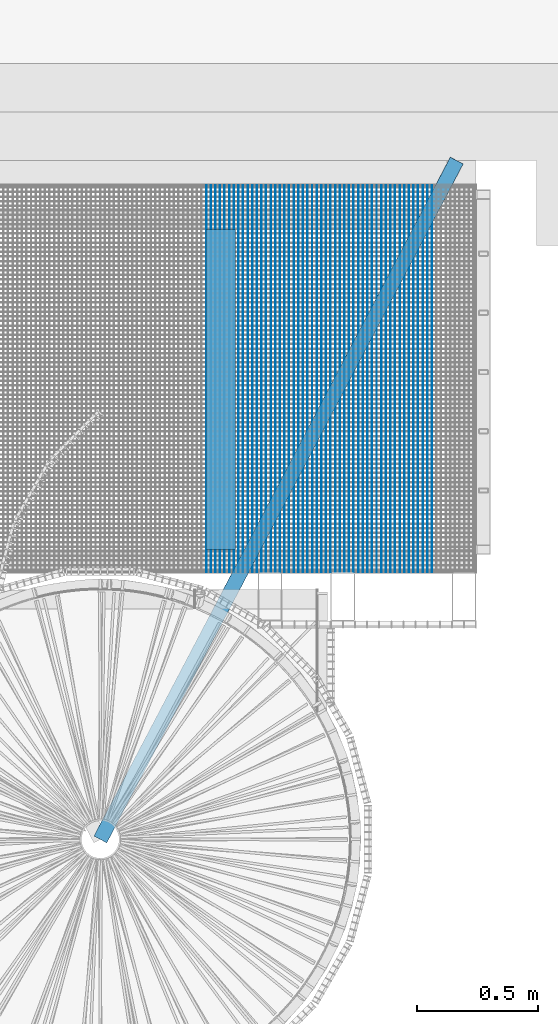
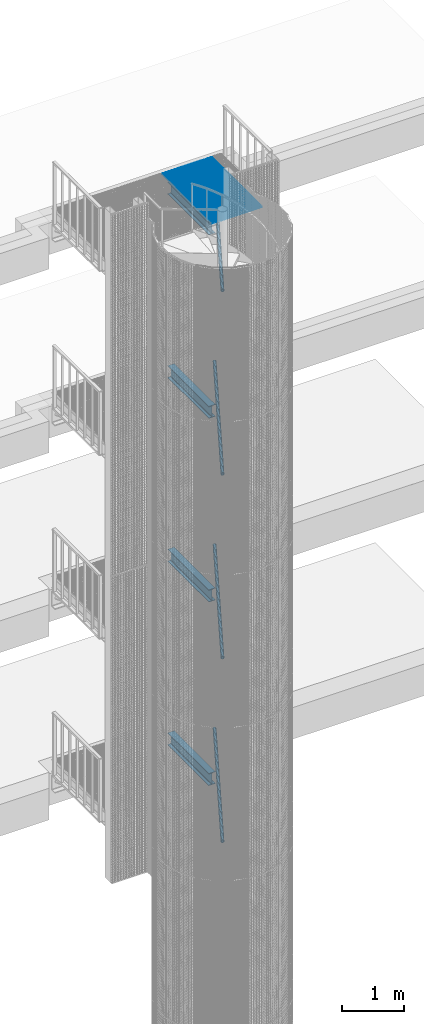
# One storey, part 86 of 1148: 58 beams, 9 elements without a shape of their own.
"""IFC2X3 building model written with IfcOpenShell, lengths in millimetres."""

from ifc_helpers import new_model, si_unit, frame, origin_with_axes, origin_2d_with_axis, place, context, subcontext, project, spatial, rectangle, hollow_circle, i_section, extrude, material, type_object, element, aggregate, save


model = new_model("IFC2X3")

# Units and contexts
model_context = context("Model", 3, precision=1e-05, world=origin_with_axes())
body_context = subcontext(model_context, "Body", "Model", "MODEL_VIEW")
ifc_project = project(units=[si_unit("LENGTHUNIT", "METRE", prefix="MILLI"), si_unit("AREAUNIT", "SQUARE_METRE"), si_unit("VOLUMEUNIT", "CUBIC_METRE"), si_unit("MASSUNIT", "GRAM", prefix="KILO"), si_unit("TIMEUNIT", "SECOND"), si_unit("PLANEANGLEUNIT", "RADIAN"), si_unit("SOLIDANGLEUNIT", "STERADIAN"), si_unit("THERMODYNAMICTEMPERATUREUNIT", "DEGREE_CELSIUS"), si_unit("LUMINOUSINTENSITYUNIT", "LUMEN")], contexts=[model_context])

# Site, building, storey
site_placement = place(None, origin_with_axes())
site = spatial("IfcSite", under=ifc_project, at=site_placement, Name="Undefined", CompositionType="ELEMENT")
building_placement = place(site_placement, origin_with_axes())
building = spatial("IfcBuilding", under=site, at=building_placement, Name="Undefined", CompositionType="ELEMENT")
storey_placement = place(building_placement, origin_with_axes())
storey = spatial("IfcBuildingStorey", under=building, at=storey_placement, Name="Undefined", CompositionType="ELEMENT", Elevation=0.0)

# Assembly, beams
assembly_1_placement = place(storey_placement, origin_with_axes())
assembly_1 = element("IfcElementAssembly", 1, at=assembly_1_placement, inside=storey, Name="BORDURE", AssemblyPlace="NOTDEFINED", PredefinedType="NOTDEFINED")
ifc_material_1 = material(Name="STEEL/S235JR")
beam_type_1 = type_object("IfcBeamType", Name="PL2*10", PredefinedType="NOTDEFINED")
beam_1_placement = place(assembly_1_placement, frame((437.075424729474, 1102.00446993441, 17285.0), z_axis=(0.0, 0.0, 1.0), x_axis=(-4.50599999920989e-06, 0.999999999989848, 0.0)))
beam_1 = element("IfcBeam", 2, at=beam_1_placement, type_object=beam_type_1, material=ifc_material_1, Name="ENTRETOISE", context=body_context, shape_type="SweptSolid", body=[
    extrude(rectangle(XDim=2.0, YDim=10.0, at=origin_2d_with_axis()), frame((1596.0000000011, -1.35186458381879e-18, -7.27595761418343e-12), z_axis=(-1.0, 0.0, 0.0), x_axis=(0.0, -1.0, 0.0)), (0.0, 0.0, 1.0), 1596.0),
])
beam_2_placement = place(assembly_1_placement, frame((456.07542472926, 1102.00456345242, 17285.0), z_axis=(0.0, 0.0, 1.0), x_axis=(-4.50599999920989e-06, 0.999999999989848, 0.0)))
beam_2 = element("IfcBeam", 3, at=beam_2_placement, type_object=beam_type_1, material=ifc_material_1, Name="ENTRETOISE", context=body_context, shape_type="SweptSolid", body=[
    extrude(rectangle(XDim=2.0, YDim=10.0, at=origin_2d_with_axis()), frame((1596.0000000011, -1.35186458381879e-18, -7.27595761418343e-12), z_axis=(-1.0, 0.0, 0.0), x_axis=(0.0, -1.0, 0.0)), (0.0, 0.0, 1.0), 1596.0),
])
beam_3_placement = place(assembly_1_placement, frame((475.075424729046, 1102.00465697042, 17285.0), z_axis=(0.0, 0.0, 1.0), x_axis=(-4.50599999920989e-06, 0.999999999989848, 0.0)))
beam_3 = element("IfcBeam", 4, at=beam_3_placement, type_object=beam_type_1, material=ifc_material_1, Name="ENTRETOISE", context=body_context, shape_type="SweptSolid", body=[
    extrude(rectangle(XDim=2.0, YDim=10.0, at=origin_2d_with_axis()), frame((1596.0000000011, -1.35186458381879e-18, -7.27595761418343e-12), z_axis=(-1.0, 0.0, 0.0), x_axis=(0.0, -1.0, 0.0)), (0.0, 0.0, 1.0), 1596.0),
])
beam_4_placement = place(assembly_1_placement, frame((494.075424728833, 1102.00475048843, 17285.0), z_axis=(0.0, 0.0, 1.0), x_axis=(-4.50599999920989e-06, 0.999999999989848, 0.0)))
beam_4 = element("IfcBeam", 5, at=beam_4_placement, type_object=beam_type_1, material=ifc_material_1, Name="ENTRETOISE", context=body_context, shape_type="SweptSolid", body=[
    extrude(rectangle(XDim=2.0, YDim=10.0, at=origin_2d_with_axis()), frame((1596.0000000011, -1.35186458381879e-18, -7.27595761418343e-12), z_axis=(-1.0, 0.0, 0.0), x_axis=(0.0, -1.0, 0.0)), (0.0, 0.0, 1.0), 1596.0),
])
beam_5_placement = place(assembly_1_placement, frame((513.07542472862, 1102.00484400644, 17285.0), z_axis=(0.0, 0.0, 1.0), x_axis=(-4.50599999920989e-06, 0.999999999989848, 0.0)))
beam_5 = element("IfcBeam", 6, at=beam_5_placement, type_object=beam_type_1, material=ifc_material_1, Name="ENTRETOISE", context=body_context, shape_type="SweptSolid", body=[
    extrude(rectangle(XDim=2.0, YDim=10.0, at=origin_2d_with_axis()), frame((1596.0000000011, -1.35186458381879e-18, -7.27595761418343e-12), z_axis=(-1.0, 0.0, 0.0), x_axis=(0.0, -1.0, 0.0)), (0.0, 0.0, 1.0), 1596.0),
])
beam_6_placement = place(assembly_1_placement, frame((532.075424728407, 1102.00493752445, 17285.0), z_axis=(0.0, 0.0, 1.0), x_axis=(-4.50599999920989e-06, 0.999999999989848, 0.0)))
beam_6 = element("IfcBeam", 7, at=beam_6_placement, type_object=beam_type_1, material=ifc_material_1, Name="ENTRETOISE", context=body_context, shape_type="SweptSolid", body=[
    extrude(rectangle(XDim=2.0, YDim=10.0, at=origin_2d_with_axis()), frame((1596.0000000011, -1.35186458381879e-18, -7.27595761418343e-12), z_axis=(-1.0, 0.0, 0.0), x_axis=(0.0, -1.0, 0.0)), (0.0, 0.0, 1.0), 1596.0),
])
beam_7_placement = place(assembly_1_placement, frame((551.075424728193, 1102.00503104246, 17285.0), z_axis=(0.0, 0.0, 1.0), x_axis=(-4.50599999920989e-06, 0.999999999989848, 0.0)))
beam_7 = element("IfcBeam", 8, at=beam_7_placement, type_object=beam_type_1, material=ifc_material_1, Name="ENTRETOISE", context=body_context, shape_type="SweptSolid", body=[
    extrude(rectangle(XDim=2.0, YDim=10.0, at=origin_2d_with_axis()), frame((1596.0000000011, -1.35186458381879e-18, -7.27595761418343e-12), z_axis=(-1.0, 0.0, 0.0), x_axis=(0.0, -1.0, 0.0)), (0.0, 0.0, 1.0), 1596.0),
])
beam_8_placement = place(assembly_1_placement, frame((570.07542472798, 1102.00512456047, 17285.0), z_axis=(0.0, 0.0, 1.0), x_axis=(-4.50599999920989e-06, 0.999999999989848, 0.0)))
beam_8 = element("IfcBeam", 9, at=beam_8_placement, type_object=beam_type_1, material=ifc_material_1, Name="ENTRETOISE", context=body_context, shape_type="SweptSolid", body=[
    extrude(rectangle(XDim=2.0, YDim=10.0, at=origin_2d_with_axis()), frame((1596.0000000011, -1.35186458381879e-18, -7.27595761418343e-12), z_axis=(-1.0, 0.0, 0.0), x_axis=(0.0, -1.0, 0.0)), (0.0, 0.0, 1.0), 1596.0),
])
beam_9_placement = place(assembly_1_placement, frame((589.075424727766, 1102.00521807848, 17285.0), z_axis=(0.0, 0.0, 1.0), x_axis=(-4.50599999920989e-06, 0.999999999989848, 0.0)))
beam_9 = element("IfcBeam", 10, at=beam_9_placement, type_object=beam_type_1, material=ifc_material_1, Name="ENTRETOISE", context=body_context, shape_type="SweptSolid", body=[
    extrude(rectangle(XDim=2.0, YDim=10.0, at=origin_2d_with_axis()), frame((1596.0000000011, -1.35186458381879e-18, -7.27595761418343e-12), z_axis=(-1.0, 0.0, 0.0), x_axis=(0.0, -1.0, 0.0)), (0.0, 0.0, 1.0), 1596.0),
])
beam_10_placement = place(assembly_1_placement, frame((608.075424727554, 1102.00531159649, 17285.0), z_axis=(0.0, 0.0, 1.0), x_axis=(-4.50599999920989e-06, 0.999999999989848, 0.0)))
beam_10 = element("IfcBeam", 11, at=beam_10_placement, type_object=beam_type_1, material=ifc_material_1, Name="ENTRETOISE", context=body_context, shape_type="SweptSolid", body=[
    extrude(rectangle(XDim=2.0, YDim=10.0, at=origin_2d_with_axis()), frame((1596.0000000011, -1.35186458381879e-18, -7.27595761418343e-12), z_axis=(-1.0, 0.0, 0.0), x_axis=(0.0, -1.0, 0.0)), (0.0, 0.0, 1.0), 1596.0),
])
beam_11_placement = place(assembly_1_placement, frame((627.075424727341, 1102.0054051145, 17285.0), z_axis=(0.0, 0.0, 1.0), x_axis=(-4.50599999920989e-06, 0.999999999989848, 0.0)))
beam_11 = element("IfcBeam", 12, at=beam_11_placement, type_object=beam_type_1, material=ifc_material_1, Name="ENTRETOISE", context=body_context, shape_type="SweptSolid", body=[
    extrude(rectangle(XDim=2.0, YDim=10.0, at=origin_2d_with_axis()), frame((1596.0000000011, -1.35186458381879e-18, -7.27595761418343e-12), z_axis=(-1.0, 0.0, 0.0), x_axis=(0.0, -1.0, 0.0)), (0.0, 0.0, 1.0), 1596.0),
])
beam_12_placement = place(assembly_1_placement, frame((646.075424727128, 1102.0054986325, 17285.0), z_axis=(0.0, 0.0, 1.0), x_axis=(-4.50599999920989e-06, 0.999999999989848, 0.0)))
beam_12 = element("IfcBeam", 13, at=beam_12_placement, type_object=beam_type_1, material=ifc_material_1, Name="ENTRETOISE", context=body_context, shape_type="SweptSolid", body=[
    extrude(rectangle(XDim=2.0, YDim=10.0, at=origin_2d_with_axis()), frame((1596.0000000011, -1.35186458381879e-18, -7.27595761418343e-12), z_axis=(-1.0, 0.0, 0.0), x_axis=(0.0, -1.0, 0.0)), (0.0, 0.0, 1.0), 1596.0),
])
beam_13_placement = place(assembly_1_placement, frame((665.075424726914, 1102.00559215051, 17285.0), z_axis=(0.0, 0.0, 1.0), x_axis=(-4.50599999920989e-06, 0.999999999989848, 0.0)))
beam_13 = element("IfcBeam", 14, at=beam_13_placement, type_object=beam_type_1, material=ifc_material_1, Name="ENTRETOISE", context=body_context, shape_type="SweptSolid", body=[
    extrude(rectangle(XDim=2.0, YDim=10.0, at=origin_2d_with_axis()), frame((1596.0000000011, -1.35186458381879e-18, -7.27595761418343e-12), z_axis=(-1.0, 0.0, 0.0), x_axis=(0.0, -1.0, 0.0)), (0.0, 0.0, 1.0), 1596.0),
])
beam_14_placement = place(assembly_1_placement, frame((684.0754247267, 1102.00568566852, 17285.0), z_axis=(0.0, 0.0, 1.0), x_axis=(-4.50599999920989e-06, 0.999999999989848, 0.0)))
beam_14 = element("IfcBeam", 15, at=beam_14_placement, type_object=beam_type_1, material=ifc_material_1, Name="ENTRETOISE", context=body_context, shape_type="SweptSolid", body=[
    extrude(rectangle(XDim=2.0, YDim=10.0, at=origin_2d_with_axis()), frame((1596.0000000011, -1.35186458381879e-18, -7.27595761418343e-12), z_axis=(-1.0, 0.0, 0.0), x_axis=(0.0, -1.0, 0.0)), (0.0, 0.0, 1.0), 1596.0),
])
beam_15_placement = place(assembly_1_placement, frame((703.075424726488, 1102.00577918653, 17285.0), z_axis=(0.0, 0.0, 1.0), x_axis=(-4.50599999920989e-06, 0.999999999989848, 0.0)))
beam_15 = element("IfcBeam", 16, at=beam_15_placement, type_object=beam_type_1, material=ifc_material_1, Name="ENTRETOISE", context=body_context, shape_type="SweptSolid", body=[
    extrude(rectangle(XDim=2.0, YDim=10.0, at=origin_2d_with_axis()), frame((1596.0000000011, -1.35186458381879e-18, -7.27595761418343e-12), z_axis=(-1.0, 0.0, 0.0), x_axis=(0.0, -1.0, 0.0)), (0.0, 0.0, 1.0), 1596.0),
])
beam_16_placement = place(assembly_1_placement, frame((722.075424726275, 1102.00587270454, 17285.0), z_axis=(0.0, 0.0, 1.0), x_axis=(-4.50599999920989e-06, 0.999999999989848, 0.0)))
beam_16 = element("IfcBeam", 17, at=beam_16_placement, type_object=beam_type_1, material=ifc_material_1, Name="ENTRETOISE", context=body_context, shape_type="SweptSolid", body=[
    extrude(rectangle(XDim=2.0, YDim=10.0, at=origin_2d_with_axis()), frame((1596.0000000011, -1.35186458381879e-18, -7.27595761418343e-12), z_axis=(-1.0, 0.0, 0.0), x_axis=(0.0, -1.0, 0.0)), (0.0, 0.0, 1.0), 1596.0),
])
beam_17_placement = place(assembly_1_placement, frame((741.075424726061, 1102.00596622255, 17285.0), z_axis=(0.0, 0.0, 1.0), x_axis=(-4.50599999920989e-06, 0.999999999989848, 0.0)))
beam_17 = element("IfcBeam", 18, at=beam_17_placement, type_object=beam_type_1, material=ifc_material_1, Name="ENTRETOISE", context=body_context, shape_type="SweptSolid", body=[
    extrude(rectangle(XDim=2.0, YDim=10.0, at=origin_2d_with_axis()), frame((1596.0000000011, -1.35186458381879e-18, -7.27595761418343e-12), z_axis=(-1.0, 0.0, 0.0), x_axis=(0.0, -1.0, 0.0)), (0.0, 0.0, 1.0), 1596.0),
])
beam_18_placement = place(assembly_1_placement, frame((760.075424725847, 1102.00605974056, 17285.0), z_axis=(0.0, 0.0, 1.0), x_axis=(-4.50599999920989e-06, 0.999999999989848, 0.0)))
beam_18 = element("IfcBeam", 19, at=beam_18_placement, type_object=beam_type_1, material=ifc_material_1, Name="ENTRETOISE", context=body_context, shape_type="SweptSolid", body=[
    extrude(rectangle(XDim=2.0, YDim=10.0, at=origin_2d_with_axis()), frame((1596.0000000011, -1.35186458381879e-18, -7.27595761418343e-12), z_axis=(-1.0, 0.0, 0.0), x_axis=(0.0, -1.0, 0.0)), (0.0, 0.0, 1.0), 1596.0),
])
beam_19_placement = place(assembly_1_placement, frame((779.075424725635, 1102.00615325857, 17285.0), z_axis=(0.0, 0.0, 1.0), x_axis=(-4.50599999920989e-06, 0.999999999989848, 0.0)))
beam_19 = element("IfcBeam", 20, at=beam_19_placement, type_object=beam_type_1, material=ifc_material_1, Name="ENTRETOISE", context=body_context, shape_type="SweptSolid", body=[
    extrude(rectangle(XDim=2.0, YDim=10.0, at=origin_2d_with_axis()), frame((1596.0000000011, -1.35186458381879e-18, -7.27595761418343e-12), z_axis=(-1.0, 0.0, 0.0), x_axis=(0.0, -1.0, 0.0)), (0.0, 0.0, 1.0), 1596.0),
])
beam_20_placement = place(assembly_1_placement, frame((798.075424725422, 1102.00624677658, 17285.0), z_axis=(0.0, 0.0, 1.0), x_axis=(-4.50599999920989e-06, 0.999999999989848, 0.0)))
beam_20 = element("IfcBeam", 21, at=beam_20_placement, type_object=beam_type_1, material=ifc_material_1, Name="ENTRETOISE", context=body_context, shape_type="SweptSolid", body=[
    extrude(rectangle(XDim=2.0, YDim=10.0, at=origin_2d_with_axis()), frame((1596.0000000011, -1.35186458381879e-18, -7.27595761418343e-12), z_axis=(-1.0, 0.0, 0.0), x_axis=(0.0, -1.0, 0.0)), (0.0, 0.0, 1.0), 1596.0),
])
beam_21_placement = place(assembly_1_placement, frame((817.075424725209, 1102.00634029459, 17285.0), z_axis=(0.0, 0.0, 1.0), x_axis=(-4.50599999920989e-06, 0.999999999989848, 0.0)))
beam_21 = element("IfcBeam", 22, at=beam_21_placement, type_object=beam_type_1, material=ifc_material_1, Name="ENTRETOISE", context=body_context, shape_type="SweptSolid", body=[
    extrude(rectangle(XDim=2.0, YDim=10.0, at=origin_2d_with_axis()), frame((1596.0000000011, -1.35186458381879e-18, -7.27595761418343e-12), z_axis=(-1.0, 0.0, 0.0), x_axis=(0.0, -1.0, 0.0)), (0.0, 0.0, 1.0), 1596.0),
])
beam_22_placement = place(assembly_1_placement, frame((836.075424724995, 1102.00643381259, 17285.0), z_axis=(0.0, 0.0, 1.0), x_axis=(-4.50599999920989e-06, 0.999999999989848, 0.0)))
beam_22 = element("IfcBeam", 23, at=beam_22_placement, type_object=beam_type_1, material=ifc_material_1, Name="ENTRETOISE", context=body_context, shape_type="SweptSolid", body=[
    extrude(rectangle(XDim=2.0, YDim=10.0, at=origin_2d_with_axis()), frame((1596.0000000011, -1.35186458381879e-18, -7.27595761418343e-12), z_axis=(-1.0, 0.0, 0.0), x_axis=(0.0, -1.0, 0.0)), (0.0, 0.0, 1.0), 1596.0),
])
beam_23_placement = place(assembly_1_placement, frame((855.075424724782, 1102.0065273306, 17285.0), z_axis=(0.0, 0.0, 1.0), x_axis=(-4.50599999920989e-06, 0.999999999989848, 0.0)))
beam_23 = element("IfcBeam", 24, at=beam_23_placement, type_object=beam_type_1, material=ifc_material_1, Name="ENTRETOISE", context=body_context, shape_type="SweptSolid", body=[
    extrude(rectangle(XDim=2.0, YDim=10.0, at=origin_2d_with_axis()), frame((1596.0000000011, -1.35186458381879e-18, -7.27595761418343e-12), z_axis=(-1.0, 0.0, 0.0), x_axis=(0.0, -1.0, 0.0)), (0.0, 0.0, 1.0), 1596.0),
])
beam_24_placement = place(assembly_1_placement, frame((874.075424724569, 1102.00662084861, 17285.0), z_axis=(0.0, 0.0, 1.0), x_axis=(-4.50599999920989e-06, 0.999999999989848, 0.0)))
beam_24 = element("IfcBeam", 25, at=beam_24_placement, type_object=beam_type_1, material=ifc_material_1, Name="ENTRETOISE", context=body_context, shape_type="SweptSolid", body=[
    extrude(rectangle(XDim=2.0, YDim=10.0, at=origin_2d_with_axis()), frame((1596.0000000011, -1.35186458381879e-18, -7.27595761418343e-12), z_axis=(-1.0, 0.0, 0.0), x_axis=(0.0, -1.0, 0.0)), (0.0, 0.0, 1.0), 1596.0),
])
beam_25_placement = place(assembly_1_placement, frame((893.075424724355, 1102.00671436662, 17285.0), z_axis=(0.0, 0.0, 1.0), x_axis=(-4.50599999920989e-06, 0.999999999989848, 0.0)))
beam_25 = element("IfcBeam", 26, at=beam_25_placement, type_object=beam_type_1, material=ifc_material_1, Name="ENTRETOISE", context=body_context, shape_type="SweptSolid", body=[
    extrude(rectangle(XDim=2.0, YDim=10.0, at=origin_2d_with_axis()), frame((1596.0000000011, -1.35186458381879e-18, -7.27595761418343e-12), z_axis=(-1.0, 0.0, 0.0), x_axis=(0.0, -1.0, 0.0)), (0.0, 0.0, 1.0), 1596.0),
])
beam_26_placement = place(assembly_1_placement, frame((912.075424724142, 1102.00680788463, 17285.0), z_axis=(0.0, 0.0, 1.0), x_axis=(-4.50599999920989e-06, 0.999999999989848, 0.0)))
beam_26 = element("IfcBeam", 27, at=beam_26_placement, type_object=beam_type_1, material=ifc_material_1, Name="ENTRETOISE", context=body_context, shape_type="SweptSolid", body=[
    extrude(rectangle(XDim=2.0, YDim=10.0, at=origin_2d_with_axis()), frame((1596.0000000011, -1.35186458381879e-18, -7.27595761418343e-12), z_axis=(-1.0, 0.0, 0.0), x_axis=(0.0, -1.0, 0.0)), (0.0, 0.0, 1.0), 1596.0),
])
beam_27_placement = place(assembly_1_placement, frame((931.075424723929, 1102.00690140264, 17285.0), z_axis=(0.0, 0.0, 1.0), x_axis=(-4.50599999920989e-06, 0.999999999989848, 0.0)))
beam_27 = element("IfcBeam", 28, at=beam_27_placement, type_object=beam_type_1, material=ifc_material_1, Name="ENTRETOISE", context=body_context, shape_type="SweptSolid", body=[
    extrude(rectangle(XDim=2.0, YDim=10.0, at=origin_2d_with_axis()), frame((1596.0000000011, -1.35186458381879e-18, -7.27595761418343e-12), z_axis=(-1.0, 0.0, 0.0), x_axis=(0.0, -1.0, 0.0)), (0.0, 0.0, 1.0), 1596.0),
])
beam_28_placement = place(assembly_1_placement, frame((950.075424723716, 1102.00699492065, 17285.0), z_axis=(0.0, 0.0, 1.0), x_axis=(-4.50599999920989e-06, 0.999999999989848, 0.0)))
beam_28 = element("IfcBeam", 29, at=beam_28_placement, type_object=beam_type_1, material=ifc_material_1, Name="ENTRETOISE", context=body_context, shape_type="SweptSolid", body=[
    extrude(rectangle(XDim=2.0, YDim=10.0, at=origin_2d_with_axis()), frame((1596.0000000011, -1.35186458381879e-18, -7.27595761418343e-12), z_axis=(-1.0, 0.0, 0.0), x_axis=(0.0, -1.0, 0.0)), (0.0, 0.0, 1.0), 1596.0),
])
beam_29_placement = place(assembly_1_placement, frame((969.075424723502, 1102.00708843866, 17285.0), z_axis=(0.0, 0.0, 1.0), x_axis=(-4.50599999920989e-06, 0.999999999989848, 0.0)))
beam_29 = element("IfcBeam", 30, at=beam_29_placement, type_object=beam_type_1, material=ifc_material_1, Name="ENTRETOISE", context=body_context, shape_type="SweptSolid", body=[
    extrude(rectangle(XDim=2.0, YDim=10.0, at=origin_2d_with_axis()), frame((1596.0000000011, -1.35186458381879e-18, -7.27595761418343e-12), z_axis=(-1.0, 0.0, 0.0), x_axis=(0.0, -1.0, 0.0)), (0.0, 0.0, 1.0), 1596.0),
])
beam_30_placement = place(assembly_1_placement, frame((988.07542472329, 1102.00718195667, 17285.0), z_axis=(0.0, 0.0, 1.0), x_axis=(-4.50599999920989e-06, 0.999999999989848, 0.0)))
beam_30 = element("IfcBeam", 31, at=beam_30_placement, type_object=beam_type_1, material=ifc_material_1, Name="ENTRETOISE", context=body_context, shape_type="SweptSolid", body=[
    extrude(rectangle(XDim=2.0, YDim=10.0, at=origin_2d_with_axis()), frame((1596.0000000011, -1.35186458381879e-18, -7.27595761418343e-12), z_axis=(-1.0, 0.0, 0.0), x_axis=(0.0, -1.0, 0.0)), (0.0, 0.0, 1.0), 1596.0),
])
beam_31_placement = place(assembly_1_placement, frame((1007.07542472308, 1102.00727547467, 17285.0), z_axis=(0.0, 0.0, 1.0), x_axis=(-4.50599999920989e-06, 0.999999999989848, 0.0)))
beam_31 = element("IfcBeam", 32, at=beam_31_placement, type_object=beam_type_1, material=ifc_material_1, Name="ENTRETOISE", context=body_context, shape_type="SweptSolid", body=[
    extrude(rectangle(XDim=2.0, YDim=10.0, at=origin_2d_with_axis()), frame((1596.0000000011, -1.35186458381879e-18, -7.27595761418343e-12), z_axis=(-1.0, 0.0, 0.0), x_axis=(0.0, -1.0, 0.0)), (0.0, 0.0, 1.0), 1596.0),
])
beam_32_placement = place(assembly_1_placement, frame((1026.07542472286, 1102.00736899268, 17285.0), z_axis=(0.0, 0.0, 1.0), x_axis=(-4.50599999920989e-06, 0.999999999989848, 0.0)))
beam_32 = element("IfcBeam", 33, at=beam_32_placement, type_object=beam_type_1, material=ifc_material_1, Name="ENTRETOISE", context=body_context, shape_type="SweptSolid", body=[
    extrude(rectangle(XDim=2.0, YDim=10.0, at=origin_2d_with_axis()), frame((1596.0000000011, -1.35186458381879e-18, -7.27595761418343e-12), z_axis=(-1.0, 0.0, 0.0), x_axis=(0.0, -1.0, 0.0)), (0.0, 0.0, 1.0), 1596.0),
])
beam_33_placement = place(assembly_1_placement, frame((1045.07542472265, 1102.00746251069, 17285.0), z_axis=(0.0, 0.0, 1.0), x_axis=(-4.50599999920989e-06, 0.999999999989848, 0.0)))
beam_33 = element("IfcBeam", 34, at=beam_33_placement, type_object=beam_type_1, material=ifc_material_1, Name="ENTRETOISE", context=body_context, shape_type="SweptSolid", body=[
    extrude(rectangle(XDim=2.0, YDim=10.0, at=origin_2d_with_axis()), frame((1596.0000000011, -1.35186458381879e-18, -7.27595761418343e-12), z_axis=(-1.0, 0.0, 0.0), x_axis=(0.0, -1.0, 0.0)), (0.0, 0.0, 1.0), 1596.0),
])
beam_34_placement = place(assembly_1_placement, frame((1064.07542472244, 1102.0075560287, 17285.0), z_axis=(0.0, 0.0, 1.0), x_axis=(-4.50599999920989e-06, 0.999999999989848, 0.0)))
beam_34 = element("IfcBeam", 35, at=beam_34_placement, type_object=beam_type_1, material=ifc_material_1, Name="ENTRETOISE", context=body_context, shape_type="SweptSolid", body=[
    extrude(rectangle(XDim=2.0, YDim=10.0, at=origin_2d_with_axis()), frame((1596.0000000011, -1.35186458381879e-18, -7.27595761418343e-12), z_axis=(-1.0, 0.0, 0.0), x_axis=(0.0, -1.0, 0.0)), (0.0, 0.0, 1.0), 1596.0),
])
beam_35_placement = place(assembly_1_placement, frame((1083.07542472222, 1102.00764954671, 17285.0), z_axis=(0.0, 0.0, 1.0), x_axis=(-4.50599999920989e-06, 0.999999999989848, 0.0)))
beam_35 = element("IfcBeam", 36, at=beam_35_placement, type_object=beam_type_1, material=ifc_material_1, Name="ENTRETOISE", context=body_context, shape_type="SweptSolid", body=[
    extrude(rectangle(XDim=2.0, YDim=10.0, at=origin_2d_with_axis()), frame((1596.0000000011, -1.35186458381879e-18, -7.27595761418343e-12), z_axis=(-1.0, 0.0, 0.0), x_axis=(0.0, -1.0, 0.0)), (0.0, 0.0, 1.0), 1596.0),
])
beam_36_placement = place(assembly_1_placement, frame((1102.07542472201, 1102.00774306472, 17285.0), z_axis=(0.0, 0.0, 1.0), x_axis=(-4.50599999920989e-06, 0.999999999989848, 0.0)))
beam_36 = element("IfcBeam", 37, at=beam_36_placement, type_object=beam_type_1, material=ifc_material_1, Name="ENTRETOISE", context=body_context, shape_type="SweptSolid", body=[
    extrude(rectangle(XDim=2.0, YDim=10.0, at=origin_2d_with_axis()), frame((1596.0000000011, -1.35186458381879e-18, -7.27595761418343e-12), z_axis=(-1.0, 0.0, 0.0), x_axis=(0.0, -1.0, 0.0)), (0.0, 0.0, 1.0), 1596.0),
])
beam_37_placement = place(assembly_1_placement, frame((1121.0754247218, 1102.00783658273, 17285.0), z_axis=(0.0, 0.0, 1.0), x_axis=(-4.50599999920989e-06, 0.999999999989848, 0.0)))
beam_37 = element("IfcBeam", 38, at=beam_37_placement, type_object=beam_type_1, material=ifc_material_1, Name="ENTRETOISE", context=body_context, shape_type="SweptSolid", body=[
    extrude(rectangle(XDim=2.0, YDim=10.0, at=origin_2d_with_axis()), frame((1596.0000000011, -1.35186458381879e-18, -7.27595761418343e-12), z_axis=(-1.0, 0.0, 0.0), x_axis=(0.0, -1.0, 0.0)), (0.0, 0.0, 1.0), 1596.0),
])
beam_38_placement = place(assembly_1_placement, frame((1140.07542472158, 1102.00793010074, 17285.0), z_axis=(0.0, 0.0, 1.0), x_axis=(-4.50599999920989e-06, 0.999999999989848, 0.0)))
beam_38 = element("IfcBeam", 39, at=beam_38_placement, type_object=beam_type_1, material=ifc_material_1, Name="ENTRETOISE", context=body_context, shape_type="SweptSolid", body=[
    extrude(rectangle(XDim=2.0, YDim=10.0, at=origin_2d_with_axis()), frame((1596.0000000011, -1.35186458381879e-18, -7.27595761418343e-12), z_axis=(-1.0, 0.0, 0.0), x_axis=(0.0, -1.0, 0.0)), (0.0, 0.0, 1.0), 1596.0),
])
beam_39_placement = place(assembly_1_placement, frame((1159.07542472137, 1102.00802361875, 17285.0), z_axis=(0.0, 0.0, 1.0), x_axis=(-4.50599999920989e-06, 0.999999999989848, 0.0)))
beam_39 = element("IfcBeam", 40, at=beam_39_placement, type_object=beam_type_1, material=ifc_material_1, Name="ENTRETOISE", context=body_context, shape_type="SweptSolid", body=[
    extrude(rectangle(XDim=2.0, YDim=10.0, at=origin_2d_with_axis()), frame((1596.0000000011, -1.35186458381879e-18, -7.27595761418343e-12), z_axis=(-1.0, 0.0, 0.0), x_axis=(0.0, -1.0, 0.0)), (0.0, 0.0, 1.0), 1596.0),
])
beam_40_placement = place(assembly_1_placement, frame((1178.07542472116, 1102.00811713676, 17285.0), z_axis=(0.0, 0.0, 1.0), x_axis=(-4.50599999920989e-06, 0.999999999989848, 0.0)))
beam_40 = element("IfcBeam", 41, at=beam_40_placement, type_object=beam_type_1, material=ifc_material_1, Name="ENTRETOISE", context=body_context, shape_type="SweptSolid", body=[
    extrude(rectangle(XDim=2.0, YDim=10.0, at=origin_2d_with_axis()), frame((1596.0000000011, -1.35186458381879e-18, -7.27595761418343e-12), z_axis=(-1.0, 0.0, 0.0), x_axis=(0.0, -1.0, 0.0)), (0.0, 0.0, 1.0), 1596.0),
])
beam_41_placement = place(assembly_1_placement, frame((1197.07542472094, 1102.00821065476, 17285.0), z_axis=(0.0, 0.0, 1.0), x_axis=(-4.50599999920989e-06, 0.999999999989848, 0.0)))
beam_41 = element("IfcBeam", 42, at=beam_41_placement, type_object=beam_type_1, material=ifc_material_1, Name="ENTRETOISE", context=body_context, shape_type="SweptSolid", body=[
    extrude(rectangle(XDim=2.0, YDim=10.0, at=origin_2d_with_axis()), frame((1596.0000000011, -1.35186458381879e-18, -7.27595761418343e-12), z_axis=(-1.0, 0.0, 0.0), x_axis=(0.0, -1.0, 0.0)), (0.0, 0.0, 1.0), 1596.0),
])
beam_42_placement = place(assembly_1_placement, frame((1216.07542472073, 1102.00830417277, 17285.0), z_axis=(0.0, 0.0, 1.0), x_axis=(-4.50599999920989e-06, 0.999999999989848, 0.0)))
beam_42 = element("IfcBeam", 43, at=beam_42_placement, type_object=beam_type_1, material=ifc_material_1, Name="ENTRETOISE", context=body_context, shape_type="SweptSolid", body=[
    extrude(rectangle(XDim=2.0, YDim=10.0, at=origin_2d_with_axis()), frame((1596.0000000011, -1.35186458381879e-18, -7.27595761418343e-12), z_axis=(-1.0, 0.0, 0.0), x_axis=(0.0, -1.0, 0.0)), (0.0, 0.0, 1.0), 1596.0),
])
beam_43_placement = place(assembly_1_placement, frame((1235.07542472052, 1102.00839769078, 17285.0), z_axis=(0.0, 0.0, 1.0), x_axis=(-4.50599999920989e-06, 0.999999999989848, 0.0)))
beam_43 = element("IfcBeam", 44, at=beam_43_placement, type_object=beam_type_1, material=ifc_material_1, Name="ENTRETOISE", context=body_context, shape_type="SweptSolid", body=[
    extrude(rectangle(XDim=2.0, YDim=10.0, at=origin_2d_with_axis()), frame((1596.0000000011, -1.35186458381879e-18, -7.27595761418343e-12), z_axis=(-1.0, 0.0, 0.0), x_axis=(0.0, -1.0, 0.0)), (0.0, 0.0, 1.0), 1596.0),
])
beam_44_placement = place(assembly_1_placement, frame((1254.0754247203, 1102.00849120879, 17285.0), z_axis=(0.0, 0.0, 1.0), x_axis=(-4.50599999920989e-06, 0.999999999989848, 0.0)))
beam_44 = element("IfcBeam", 45, at=beam_44_placement, type_object=beam_type_1, material=ifc_material_1, Name="ENTRETOISE", context=body_context, shape_type="SweptSolid", body=[
    extrude(rectangle(XDim=2.0, YDim=10.0, at=origin_2d_with_axis()), frame((1596.0000000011, -1.35186458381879e-18, -7.27595761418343e-12), z_axis=(-1.0, 0.0, 0.0), x_axis=(0.0, -1.0, 0.0)), (0.0, 0.0, 1.0), 1596.0),
])
beam_45_placement = place(assembly_1_placement, frame((1273.07542472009, 1102.0085847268, 17285.0), z_axis=(0.0, 0.0, 1.0), x_axis=(-4.50599999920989e-06, 0.999999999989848, 0.0)))
beam_45 = element("IfcBeam", 46, at=beam_45_placement, type_object=beam_type_1, material=ifc_material_1, Name="ENTRETOISE", context=body_context, shape_type="SweptSolid", body=[
    extrude(rectangle(XDim=2.0, YDim=10.0, at=origin_2d_with_axis()), frame((1596.0000000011, -1.35186458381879e-18, -7.27595761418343e-12), z_axis=(-1.0, 0.0, 0.0), x_axis=(0.0, -1.0, 0.0)), (0.0, 0.0, 1.0), 1596.0),
])
beam_46_placement = place(assembly_1_placement, frame((1292.07542471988, 1102.00867824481, 17285.0), z_axis=(0.0, 0.0, 1.0), x_axis=(-4.50599999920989e-06, 0.999999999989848, 0.0)))
beam_46 = element("IfcBeam", 47, at=beam_46_placement, type_object=beam_type_1, material=ifc_material_1, Name="ENTRETOISE", context=body_context, shape_type="SweptSolid", body=[
    extrude(rectangle(XDim=2.0, YDim=10.0, at=origin_2d_with_axis()), frame((1596.0000000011, -1.35186458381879e-18, -7.27595761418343e-12), z_axis=(-1.0, 0.0, 0.0), x_axis=(0.0, -1.0, 0.0)), (0.0, 0.0, 1.0), 1596.0),
])
beam_47_placement = place(assembly_1_placement, frame((1311.07542471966, 1102.00877176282, 17285.0), z_axis=(0.0, 0.0, 1.0), x_axis=(-4.50599999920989e-06, 0.999999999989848, 0.0)))
beam_47 = element("IfcBeam", 48, at=beam_47_placement, type_object=beam_type_1, material=ifc_material_1, Name="ENTRETOISE", context=body_context, shape_type="SweptSolid", body=[
    extrude(rectangle(XDim=2.0, YDim=10.0, at=origin_2d_with_axis()), frame((1596.0000000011, -1.35186458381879e-18, -7.27595761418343e-12), z_axis=(-1.0, 0.0, 0.0), x_axis=(0.0, -1.0, 0.0)), (0.0, 0.0, 1.0), 1596.0),
])
beam_48_placement = place(assembly_1_placement, frame((1330.07542471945, 1102.00886528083, 17285.0), z_axis=(0.0, 0.0, 1.0), x_axis=(-4.50599999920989e-06, 0.999999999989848, 0.0)))
beam_48 = element("IfcBeam", 49, at=beam_48_placement, type_object=beam_type_1, material=ifc_material_1, Name="ENTRETOISE", context=body_context, shape_type="SweptSolid", body=[
    extrude(rectangle(XDim=2.0, YDim=10.0, at=origin_2d_with_axis()), frame((1596.0000000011, -1.35186458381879e-18, -7.27595761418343e-12), z_axis=(-1.0, 0.0, 0.0), x_axis=(0.0, -1.0, 0.0)), (0.0, 0.0, 1.0), 1596.0),
])
beam_49_placement = place(assembly_1_placement, frame((1349.07542471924, 1102.00895879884, 17285.0), z_axis=(0.0, 0.0, 1.0), x_axis=(-4.50599999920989e-06, 0.999999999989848, 0.0)))
beam_49 = element("IfcBeam", 50, at=beam_49_placement, type_object=beam_type_1, material=ifc_material_1, Name="ENTRETOISE", context=body_context, shape_type="SweptSolid", body=[
    extrude(rectangle(XDim=2.0, YDim=10.0, at=origin_2d_with_axis()), frame((1596.0000000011, -1.35186458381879e-18, -7.27595761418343e-12), z_axis=(-1.0, 0.0, 0.0), x_axis=(0.0, -1.0, 0.0)), (0.0, 0.0, 1.0), 1596.0),
])
beam_50_placement = place(assembly_1_placement, frame((1368.07542471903, 1102.00905231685, 17285.0), z_axis=(0.0, 0.0, 1.0), x_axis=(-4.50599999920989e-06, 0.999999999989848, 0.0)))
beam_50 = element("IfcBeam", 51, at=beam_50_placement, type_object=beam_type_1, material=ifc_material_1, Name="ENTRETOISE", context=body_context, shape_type="SweptSolid", body=[
    extrude(rectangle(XDim=2.0, YDim=10.0, at=origin_2d_with_axis()), frame((1596.0000000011, -1.35186458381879e-18, -7.27595761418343e-12), z_axis=(-1.0, 0.0, 0.0), x_axis=(0.0, -1.0, 0.0)), (0.0, 0.0, 1.0), 1596.0),
])
aggregate(assembly_1, [beam_1, beam_2, beam_3, beam_4, beam_5, beam_6, beam_7, beam_8, beam_9, beam_10, beam_11, beam_12, beam_13, beam_14, beam_15, beam_16, beam_17, beam_18, beam_19, beam_20, beam_21, beam_22, beam_23, beam_24, beam_25, beam_26, beam_27, beam_28, beam_29, beam_30, beam_31, beam_32, beam_33, beam_34, beam_35, beam_36, beam_37, beam_38, beam_39, beam_40, beam_41, beam_42, beam_43, beam_44, beam_45, beam_46, beam_47, beam_48, beam_49, beam_50])

# Assembly, beam
assembly_2_placement = place(storey_placement, origin_with_axes())
assembly_2 = element("IfcElementAssembly", 52, at=assembly_2_placement, inside=storey, AssemblyPlace="NOTDEFINED", PredefinedType="NOTDEFINED")
ifc_material_2 = material(Name="STEEL/S275JR")
beam_type_2 = type_object("IfcBeamType", Name="TUBE-60.3*5", PredefinedType="NOTDEFINED")
beam_51_placement = place(assembly_2_placement, frame((-3.78986442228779e-09, -0.239999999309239, 16790.0), z_axis=(0.0, 0.0, 1.0), x_axis=(0.464816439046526, 0.885407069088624, 0.0)))
beam_51 = element("IfcBeam", 53, at=beam_51_placement, type_object=beam_type_2, material=ifc_material_2, Name="BUTON", context=body_context, shape_type="SweptSolid", body=[
    extrude(hollow_circle(Radius=30.14999962, WallThickness=5.0, at=origin_2d_with_axis()), frame((3162.38211154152, 0.0, 0.0), z_axis=(-1.0, 0.0, 0.0), x_axis=(0.0, -1.0, 0.0)), (0.0, 0.0, 1.0), 3162.38),
])
aggregate(assembly_2, [beam_51])

assembly_3_placement = place(storey_placement, origin_with_axes())
assembly_3 = element("IfcElementAssembly", 54, at=assembly_3_placement, inside=storey, AssemblyPlace="NOTDEFINED", PredefinedType="NOTDEFINED")
beam_52_placement = place(assembly_3_placement, frame((-3.78986442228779e-09, -0.159999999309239, 13190.0), z_axis=(0.0, 0.0, 1.0), x_axis=(0.464816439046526, 0.885407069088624, 0.0)))
beam_52 = element("IfcBeam", 55, at=beam_52_placement, type_object=beam_type_2, material=ifc_material_2, Name="BUTON", context=body_context, shape_type="SweptSolid", body=[
    extrude(hollow_circle(Radius=30.14999962, WallThickness=5.0, at=origin_2d_with_axis()), frame((3162.38211154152, 0.0, 0.0), z_axis=(-1.0, 0.0, 0.0), x_axis=(0.0, -1.0, 0.0)), (0.0, 0.0, 1.0), 3162.38),
])
aggregate(assembly_3, [beam_52])

assembly_4_placement = place(storey_placement, origin_with_axes())
assembly_4 = element("IfcElementAssembly", 56, at=assembly_4_placement, inside=storey, AssemblyPlace="NOTDEFINED", PredefinedType="NOTDEFINED")
beam_53_placement = place(assembly_4_placement, frame((-3.78986442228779e-09, -0.0799999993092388, 9590.0), z_axis=(0.0, 0.0, 1.0), x_axis=(0.464816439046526, 0.885407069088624, 0.0)))
beam_53 = element("IfcBeam", 57, at=beam_53_placement, type_object=beam_type_2, material=ifc_material_2, Name="BUTON", context=body_context, shape_type="SweptSolid", body=[
    extrude(hollow_circle(Radius=30.14999962, WallThickness=5.0, at=origin_2d_with_axis()), frame((3162.38211154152, 0.0, 0.0), z_axis=(-1.0, 0.0, 0.0), x_axis=(0.0, -1.0, 0.0)), (0.0, 0.0, 1.0), 3162.38),
])
aggregate(assembly_4, [beam_53])

assembly_5_placement = place(storey_placement, origin_with_axes())
assembly_5 = element("IfcElementAssembly", 58, at=assembly_5_placement, inside=storey, AssemblyPlace="NOTDEFINED", PredefinedType="NOTDEFINED")
beam_54_placement = place(assembly_5_placement, frame((-3.78986442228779e-09, 6.90761225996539e-10, 5990.0), z_axis=(0.0, 0.0, 1.0), x_axis=(0.464816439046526, 0.885407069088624, 0.0)))
beam_54 = element("IfcBeam", 59, at=beam_54_placement, type_object=beam_type_2, material=ifc_material_2, Name="BUTON", context=body_context, shape_type="SweptSolid", body=[
    extrude(hollow_circle(Radius=30.14999962, WallThickness=5.0, at=origin_2d_with_axis()), frame((3162.38211154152, 0.0, 0.0), z_axis=(-1.0, 0.0, 0.0), x_axis=(0.0, -1.0, 0.0)), (0.0, 0.0, 1.0), 3162.38),
])
aggregate(assembly_5, [beam_54])

assembly_6_placement = place(storey_placement, origin_with_axes())
assembly_6 = element("IfcElementAssembly", 60, at=assembly_6_placement, inside=storey, AssemblyPlace="NOTDEFINED", PredefinedType="NOTDEFINED")
beam_type_3 = type_object("IfcBeamType", Name="IPE240", PredefinedType="NOTDEFINED")
beam_55_placement = place(assembly_6_placement, frame((496.74043456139, 1195.00994809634, 17120.0), z_axis=(0.0, 0.0, 1.0), x_axis=(-4.50599999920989e-06, 0.999999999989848, 0.0)))
beam_55 = element("IfcBeam", 61, at=beam_55_placement, type_object=beam_type_3, material=ifc_material_1, Name="EXISTANTS", context=body_context, shape_type="SweptSolid", body=[
    extrude(i_section(OverallWidth=120.0, OverallDepth=240.0, WebThickness=6.199999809, FlangeThickness=9.800000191, FilletRadius=15.0, at=origin_2d_with_axis()), frame((1319.99832798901, 0.0, -3.63797880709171e-12), z_axis=(-1.0, 0.0, 0.0), x_axis=(0.0, -1.0, 0.0)), (0.0, 0.0, 1.0), 1320.0),
])
aggregate(assembly_6, [beam_55])

assembly_7_placement = place(storey_placement, origin_with_axes())
assembly_7 = element("IfcElementAssembly", 62, at=assembly_7_placement, inside=storey, AssemblyPlace="NOTDEFINED", PredefinedType="NOTDEFINED")
beam_56_placement = place(assembly_7_placement, frame((496.74043456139, 1195.00994809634, 13520.0), z_axis=(0.0, 0.0, 1.0), x_axis=(-4.50599999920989e-06, 0.999999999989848, 0.0)))
beam_56 = element("IfcBeam", 63, at=beam_56_placement, type_object=beam_type_3, material=ifc_material_1, Name="EXISTANTS", context=body_context, shape_type="SweptSolid", body=[
    extrude(i_section(OverallWidth=120.0, OverallDepth=240.0, WebThickness=6.199999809, FlangeThickness=9.800000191, FilletRadius=15.0, at=origin_2d_with_axis()), frame((1319.99832798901, 0.0, -3.63797880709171e-12), z_axis=(-1.0, 0.0, 0.0), x_axis=(0.0, -1.0, 0.0)), (0.0, 0.0, 1.0), 1320.0),
])
aggregate(assembly_7, [beam_56])

assembly_8_placement = place(storey_placement, origin_with_axes())
assembly_8 = element("IfcElementAssembly", 64, at=assembly_8_placement, inside=storey, AssemblyPlace="NOTDEFINED", PredefinedType="NOTDEFINED")
beam_57_placement = place(assembly_8_placement, frame((496.74043456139, 1195.00994809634, 9920.0), z_axis=(0.0, 0.0, 1.0), x_axis=(-4.50599999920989e-06, 0.999999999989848, 0.0)))
beam_57 = element("IfcBeam", 65, at=beam_57_placement, type_object=beam_type_3, material=ifc_material_1, Name="EXISTANTS", context=body_context, shape_type="SweptSolid", body=[
    extrude(i_section(OverallWidth=120.0, OverallDepth=240.0, WebThickness=6.199999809, FlangeThickness=9.800000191, FilletRadius=15.0, at=origin_2d_with_axis()), frame((1319.99832798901, 0.0, -3.63797880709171e-12), z_axis=(-1.0, 0.0, 0.0), x_axis=(0.0, -1.0, 0.0)), (0.0, 0.0, 1.0), 1320.0),
])
aggregate(assembly_8, [beam_57])

assembly_9_placement = place(storey_placement, origin_with_axes())
assembly_9 = element("IfcElementAssembly", 66, at=assembly_9_placement, inside=storey, AssemblyPlace="NOTDEFINED", PredefinedType="NOTDEFINED")
beam_58_placement = place(assembly_9_placement, frame((496.74043456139, 1195.00994809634, 6320.0), z_axis=(0.0, 0.0, 1.0), x_axis=(-4.50599999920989e-06, 0.999999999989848, 0.0)))
beam_58 = element("IfcBeam", 67, at=beam_58_placement, type_object=beam_type_3, material=ifc_material_1, Name="EXISTANTS", context=body_context, shape_type="SweptSolid", body=[
    extrude(i_section(OverallWidth=120.0, OverallDepth=240.0, WebThickness=6.199999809, FlangeThickness=9.800000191, FilletRadius=15.0, at=origin_2d_with_axis()), frame((1319.99832798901, 0.0, -3.63797880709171e-12), z_axis=(-1.0, 0.0, 0.0), x_axis=(0.0, -1.0, 0.0)), (0.0, 0.0, 1.0), 1320.0),
])
aggregate(assembly_9, [beam_58])

save(model, "model.ifc")
